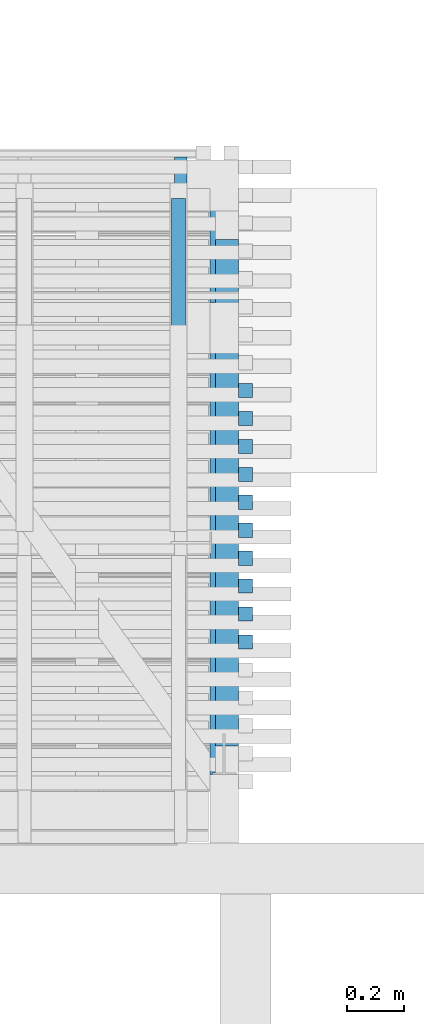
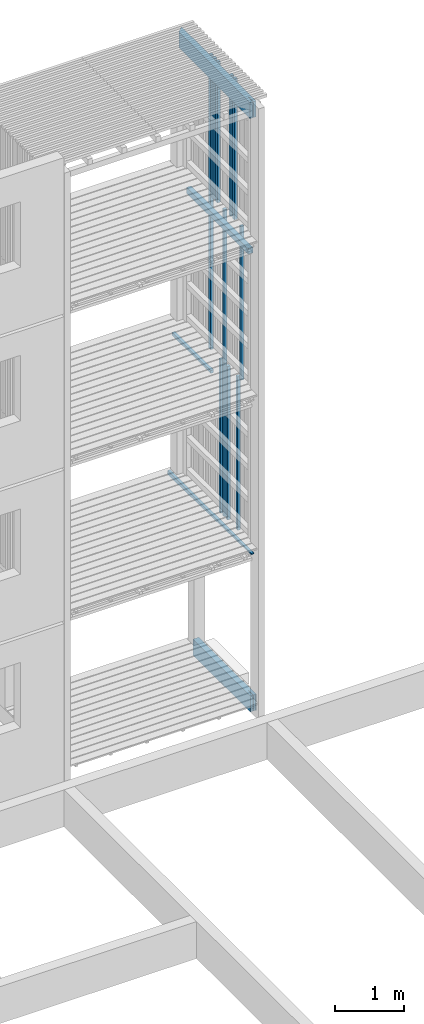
# One storey, part 131 of 182: 17 beams.
"""IFC2X3 building model written with IfcOpenShell, lengths in metres."""

from ifc_helpers import new_model, si_unit, frame, origin, place, context, project, spatial, faceted_brep, element, save


model = new_model("IFC2X3")

# Units and contexts
model_context = context("Model", 3, precision=1e-06, world=origin())
ifc_project = project(units=[si_unit("LENGTHUNIT", "METRE"), si_unit("PLANEANGLEUNIT", "RADIAN")], contexts=[model_context])

# Site, building, storey
site = spatial("IfcSite", under=ifc_project, CompositionType="ELEMENT")
building = spatial("IfcBuilding", under=site, CompositionType="ELEMENT")
storey = spatial("IfcBuildingStorey", under=building, Name="vs", CompositionType="ELEMENT", Elevation=-0.85)

# Beams
placement = place(None, origin())
beam_1_placement = place(placement, frame((56.14499999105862, 7.135077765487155, 5.217399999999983), z_axis=(0.0, 0.0, 1.0), x_axis=(0.0, -1.0, 0.0)))
element("IfcBeam", 1, at=beam_1_placement, inside=storey, Name="Calage", context=model_context, shape_type="Brep", body=[
    faceted_brep([(0.0, 0.025000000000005, -0.025), (0.0, -0.024999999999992, -0.025), (0.0, -0.024999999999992, 0.024999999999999), (0.0, 0.025000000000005, 0.024999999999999), (1.115000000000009, -0.024999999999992, 0.024999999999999), (1.115000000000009, -0.024999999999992, -0.025), (1.115000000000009, 0.025000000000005, -0.025), (1.115000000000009, 0.025000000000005, 0.024999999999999), (0.0, -0.024999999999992, 0.024999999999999), (0.0, -0.024999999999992, -0.025), (1.115000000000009, -0.024999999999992, -0.025), (1.115000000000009, -0.024999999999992, 0.024999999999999), (1.115000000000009, -0.024999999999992, -0.025), (0.0, -0.024999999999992, -0.025), (0.0, 0.025000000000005, -0.025), (1.115000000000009, 0.025000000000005, -0.025), (1.115000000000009, 0.025000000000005, -0.025), (0.0, 0.025000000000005, -0.025), (0.0, 0.025000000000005, 0.024999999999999), (1.115000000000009, 0.025000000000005, 0.024999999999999), (1.115000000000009, 0.025000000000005, 0.024999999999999), (0.0, 0.025000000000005, 0.024999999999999), (0.0, -0.024999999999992, 0.024999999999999), (1.115000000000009, -0.024999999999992, 0.024999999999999)], [[[0, 1, 2, 3]], [[4, 5, 6, 7]], [[8, 9, 10, 11]], [[12, 13, 14, 15]], [[16, 17, 18, 19]], [[20, 21, 22, 23]]]),
])
beam_2_placement = place(placement, frame((56.37999999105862, 6.066895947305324, 2.575000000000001), z_axis=(-1.0, 0.0, 0.0), x_axis=(0.0, 0.0, 1.0)))
element("IfcBeam", 2, at=beam_2_placement, inside=storey, Name="Bardage", context=model_context, shape_type="Brep", body=[
    faceted_brep([(0.0, -0.025000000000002, 0.024999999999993), (0.0, 0.024999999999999, 0.024999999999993), (0.0, 0.024999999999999, -0.025000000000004), (0.0, -0.025000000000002, -0.025000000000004), (2.699961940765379, 0.024999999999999, -0.025000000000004), (2.699961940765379, 0.024999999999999, 0.024999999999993), (2.699961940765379, -0.025000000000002, 0.024999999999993), (2.699961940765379, -0.025000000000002, -0.025000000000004), (0.0, -0.025000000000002, -0.025000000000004), (0.0, 0.024999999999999, -0.025000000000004), (2.699961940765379, 0.024999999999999, -0.025000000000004), (2.699961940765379, -0.025000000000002, -0.025000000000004), (2.699961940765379, 0.024999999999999, -0.025000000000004), (0.0, 0.024999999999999, -0.025000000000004), (0.0, 0.024999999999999, 0.024999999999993), (2.699961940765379, 0.024999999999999, 0.024999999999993), (2.699961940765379, 0.024999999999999, 0.024999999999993), (0.0, 0.024999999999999, 0.024999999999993), (0.0, -0.025000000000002, 0.024999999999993), (2.699961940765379, -0.025000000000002, 0.024999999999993), (2.699961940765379, -0.025000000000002, 0.024999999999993), (0.0, -0.025000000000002, 0.024999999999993), (0.0, -0.025000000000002, -0.025000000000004), (2.699961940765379, -0.025000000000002, -0.025000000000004)], [[[0, 1, 2, 3]], [[4, 5, 6, 7]], [[8, 9, 10, 11]], [[12, 13, 14, 15]], [[16, 17, 18, 19]], [[20, 21, 22, 23]]]),
])
beam_3_placement = place(placement, frame((56.152499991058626, 4.870077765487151, 2.684400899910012), z_axis=(0.0, 0.0, 1.0), x_axis=(0.0, 1.0, 0.0)))
element("IfcBeam", 3, at=beam_3_placement, inside=storey, Name="Calage", context=model_context, shape_type="Brep", body=[
    faceted_brep([(2.410000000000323, -0.022499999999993, -0.035599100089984), (0.0, -0.022499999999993, 0.012600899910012), (0.0, 0.022500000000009, 0.012600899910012), (2.410000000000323, 0.022500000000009, -0.035599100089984), (0.0, 0.022500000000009, 0.035599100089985), (0.0, 0.022500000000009, 0.012600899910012), (0.0, -0.022499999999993, 0.012600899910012), (0.0, -0.022499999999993, 0.035599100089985), (2.410000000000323, 0.022500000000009, -0.035599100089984), (0.0, 0.022500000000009, 0.012600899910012), (0.0, 0.022500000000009, 0.035599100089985), (2.410000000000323, 0.022500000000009, 0.035599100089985), (2.410000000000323, -0.022499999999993, 0.035599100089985), (0.0, -0.022499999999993, 0.035599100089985), (0.0, -0.022499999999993, 0.012600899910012), (2.410000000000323, -0.022499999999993, -0.035599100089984), (2.410000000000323, 0.022500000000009, 0.035599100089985), (0.0, 0.022500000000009, 0.035599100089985), (0.0, -0.022499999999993, 0.035599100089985), (2.410000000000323, -0.022499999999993, 0.035599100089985), (2.410000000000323, 0.022500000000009, -0.035599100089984), (2.410000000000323, 0.022500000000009, 0.035599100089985), (2.410000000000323, -0.022499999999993, 0.035599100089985), (2.410000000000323, -0.022499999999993, -0.035599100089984)], [[[0, 1, 2, 3]], [[4, 5, 6, 7]], [[8, 9, 10, 11]], [[12, 13, 14, 15]], [[16, 17, 18, 19]], [[20, 21, 22, 23]]]),
])
beam_4_placement = place(placement, frame((56.37999999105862, 6.066895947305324, 5.274999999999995), z_axis=(-1.0, 0.0, 0.0), x_axis=(0.0, 0.0, 1.0)))
element("IfcBeam", 4, at=beam_4_placement, inside=storey, Name="Bardage", context=model_context, shape_type="Brep", body=[
    faceted_brep([(1e-15, -0.025000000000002, 0.024999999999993), (1e-15, 0.024999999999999, 0.024999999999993), (1e-15, 0.024999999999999, -0.025000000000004), (1e-15, -0.025000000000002, -0.025000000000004), (2.699999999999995, -0.025000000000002, -0.025000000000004), (2.699999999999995, 0.024999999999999, -0.025000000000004), (2.699999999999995, 0.024999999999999, 0.024999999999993), (2.699999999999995, -0.025000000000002, 0.024999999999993), (1e-15, -0.025000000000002, 0.024999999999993), (1e-15, -0.025000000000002, -0.025000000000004), (2.699999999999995, -0.025000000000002, -0.025000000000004), (2.699999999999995, -0.025000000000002, 0.024999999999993), (2.699999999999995, -0.025000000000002, -0.025000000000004), (1e-15, -0.025000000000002, -0.025000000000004), (1e-15, 0.024999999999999, -0.025000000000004), (2.699999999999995, 0.024999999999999, -0.025000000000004), (2.699999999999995, 0.024999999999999, -0.025000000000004), (1e-15, 0.024999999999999, -0.025000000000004), (1e-15, 0.024999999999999, 0.024999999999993), (2.699999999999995, 0.024999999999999, 0.024999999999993), (2.699999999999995, 0.024999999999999, 0.024999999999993), (1e-15, 0.024999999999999, 0.024999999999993), (1e-15, -0.025000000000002, 0.024999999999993), (2.699999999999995, -0.025000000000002, 0.024999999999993)], [[[0, 1, 2, 3]], [[4, 5, 6, 7]], [[8, 9, 10, 11]], [[12, 13, 14, 15]], [[16, 17, 18, 19]], [[20, 21, 22, 23]]]),
])
beam_5_placement = place(placement, frame((56.30499999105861, 5.110077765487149, -0.119999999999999), z_axis=(0.0, 0.0, 1.0), x_axis=(0.0, 1.0, 0.0)))
element("IfcBeam", 5, at=beam_5_placement, inside=storey, Name="Sommier", context=model_context, shape_type="Brep", body=[
    faceted_brep([(1.660000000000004, 0.049999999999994, 0.14), (1.660000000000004, -0.050000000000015, 0.14), (1.660000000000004, -0.050000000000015, -0.14), (1.660000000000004, 0.049999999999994, -0.14), (0.142000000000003, -0.004000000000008, -0.14), (0.142000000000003, 0.003999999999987, -0.14), (0.005000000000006, 0.003999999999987, -0.14), (0.005000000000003, 0.040999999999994, -0.14), (4e-15, 0.040999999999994, -0.14), (0.0, 0.049999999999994, -0.14), (1.660000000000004, 0.049999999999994, -0.14), (1.660000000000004, -0.050000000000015, -0.14), (0.0, -0.050000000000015, -0.14), (4e-15, -0.041000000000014, -0.14), (0.005000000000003, -0.041000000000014, -0.14), (0.005000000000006, -0.004000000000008, -0.14), (1.660000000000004, 0.049999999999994, 0.14), (1.660000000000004, 0.049999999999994, -0.14), (0.0, 0.049999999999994, -0.14), (0.0, 0.049999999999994, 0.14), (0.852999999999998, 0.049999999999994, -0.123600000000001), (0.852999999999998, 0.049999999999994, 0.051399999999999), (0.776999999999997, 0.049999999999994, 0.051399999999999), (0.776999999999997, 0.049999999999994, -0.123600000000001), (0.0, -0.050000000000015, 0.14), (4e-15, -0.041000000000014, 0.14), (4e-15, -0.041000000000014, -0.14), (0.0, -0.050000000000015, -0.14), (0.852999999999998, 0.044999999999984, -0.123600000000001), (0.776999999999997, 0.044999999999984, -0.123600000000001), (0.776999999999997, 0.044999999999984, 0.051399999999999), (0.852999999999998, 0.044999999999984, 0.051399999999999), (0.852999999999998, 0.044999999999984, 0.051399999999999), (0.776999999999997, 0.044999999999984, 0.051399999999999), (0.776999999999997, 0.049999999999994, 0.051399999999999), (0.852999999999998, 0.049999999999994, 0.051399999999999), (0.776999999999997, 0.044999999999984, -0.123600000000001), (0.852999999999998, 0.044999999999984, -0.123600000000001), (0.852999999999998, 0.049999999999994, -0.123600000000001), (0.776999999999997, 0.049999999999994, -0.123600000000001), (0.852999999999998, 0.049999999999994, 0.051399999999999), (0.852999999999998, 0.049999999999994, -0.123600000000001), (0.852999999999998, 0.044999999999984, -0.123600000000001), (0.852999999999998, 0.044999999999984, 0.051399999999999), (0.776999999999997, 0.044999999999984, 0.051399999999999), (0.776999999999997, 0.044999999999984, -0.123600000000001), (0.776999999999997, 0.049999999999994, -0.123600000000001), (0.776999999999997, 0.049999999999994, 0.051399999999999), (0.0, -0.050000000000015, -0.14), (1.660000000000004, -0.050000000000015, -0.14), (1.660000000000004, -0.050000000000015, 0.14), (0.0, -0.050000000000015, 0.14), (0.0, 0.049999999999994, 0.14), (0.0, 0.049999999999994, -0.14), (4e-15, 0.040999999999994, -0.14), (4e-15, 0.040999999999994, 0.14), (0.0, -0.050000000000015, 0.14), (1.660000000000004, -0.050000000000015, 0.14), (1.660000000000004, 0.049999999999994, 0.14), (0.0, 0.049999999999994, 0.14), (4e-15, 0.040999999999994, 0.14), (0.005000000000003, 0.040999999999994, 0.14), (0.005000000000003, 0.003999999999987, 0.14), (0.142000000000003, 0.003999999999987, 0.140000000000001), (0.142000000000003, -0.004000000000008, 0.140000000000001), (0.005000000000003, -0.004000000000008, 0.14), (0.005000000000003, -0.041000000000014, 0.14), (4e-15, -0.041000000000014, 0.14), (0.142000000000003, 0.003999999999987, -0.14), (0.142000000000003, -0.004000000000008, -0.14), (0.142000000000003, -0.004000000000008, 0.140000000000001), (0.142000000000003, 0.003999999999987, 0.140000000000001), (0.005000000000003, -0.004000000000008, 0.14), (0.142000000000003, -0.004000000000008, 0.140000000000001), (0.142000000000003, -0.004000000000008, -0.14), (0.005000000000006, -0.004000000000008, -0.14), (0.005000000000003, -0.004000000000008, 0.14), (0.005000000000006, -0.004000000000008, -0.14), (0.005000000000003, -0.041000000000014, -0.14), (0.005000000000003, -0.041000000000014, 0.14), (0.005000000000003, -0.041000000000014, 0.14), (0.005000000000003, -0.041000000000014, -0.14), (4e-15, -0.041000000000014, -0.14), (4e-15, -0.041000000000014, 0.14), (4e-15, 0.040999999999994, 0.14), (4e-15, 0.040999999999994, -0.14), (0.005000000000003, 0.040999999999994, -0.14), (0.005000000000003, 0.040999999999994, 0.14), (0.005000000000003, 0.040999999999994, 0.14), (0.005000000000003, 0.040999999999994, -0.14), (0.005000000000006, 0.003999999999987, -0.14), (0.005000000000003, 0.003999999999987, 0.14), (0.142000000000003, 0.003999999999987, 0.140000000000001), (0.005000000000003, 0.003999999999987, 0.14), (0.005000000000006, 0.003999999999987, -0.14), (0.142000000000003, 0.003999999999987, -0.14)], [[[0, 1, 2, 3]], [[4, 5, 6, 7, 8, 9, 10, 11, 12, 13, 14, 15]], [[16, 17, 18, 19], [20, 21, 22, 23]], [[24, 25, 26, 27]], [[28, 29, 30, 31]], [[32, 33, 34, 35]], [[36, 37, 38, 39]], [[40, 41, 42, 43]], [[44, 45, 46, 47]], [[48, 49, 50, 51]], [[52, 53, 54, 55]], [[56, 57, 58, 59, 60, 61, 62, 63, 64, 65, 66, 67]], [[68, 69, 70, 71]], [[72, 73, 74, 75]], [[76, 77, 78, 79]], [[80, 81, 82, 83]], [[84, 85, 86, 87]], [[88, 89, 90, 91]], [[92, 93, 94, 95]]]),
])
beam_6_placement = place(placement, frame((56.37999999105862, 6.459623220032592, 5.274999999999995), z_axis=(-1.0, 0.0, 0.0), x_axis=(0.0, 0.0, 1.0)))
element("IfcBeam", 6, at=beam_6_placement, inside=storey, Name="Bardage", context=model_context, shape_type="Brep", body=[
    faceted_brep([(1e-15, -0.025000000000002, 0.024999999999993), (1e-15, 0.024999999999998, 0.024999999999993), (1e-15, 0.024999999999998, -0.025000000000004), (1e-15, -0.025000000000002, -0.025000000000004), (2.699999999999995, -0.025000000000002, -0.025000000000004), (2.699999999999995, 0.024999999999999, -0.025000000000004), (2.699999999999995, 0.024999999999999, 0.024999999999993), (2.699999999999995, -0.025000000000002, 0.024999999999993), (1e-15, -0.025000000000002, 0.024999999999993), (1e-15, -0.025000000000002, -0.025000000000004), (2.699999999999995, -0.025000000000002, -0.025000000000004), (2.699999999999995, -0.025000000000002, 0.024999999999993), (2.699999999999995, -0.025000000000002, -0.025000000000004), (1e-15, -0.025000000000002, -0.025000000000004), (1e-15, 0.024999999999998, -0.025000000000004), (2.699999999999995, 0.024999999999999, -0.025000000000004), (2.699999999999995, 0.024999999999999, -0.025000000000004), (1e-15, 0.024999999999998, -0.025000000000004), (1e-15, 0.024999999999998, 0.024999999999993), (2.699999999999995, 0.024999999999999, 0.024999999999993), (2.699999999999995, 0.024999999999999, 0.024999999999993), (1e-15, 0.024999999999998, 0.024999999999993), (1e-15, -0.025000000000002, 0.024999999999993), (2.699999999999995, -0.025000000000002, 0.024999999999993)], [[[0, 1, 2, 3]], [[4, 5, 6, 7]], [[8, 9, 10, 11]], [[12, 13, 14, 15]], [[16, 17, 18, 19]], [[20, 21, 22, 23]]]),
])
beam_7_placement = place(placement, frame((56.37999999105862, 6.165077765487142, 2.575000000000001), z_axis=(-1.0, 0.0, 0.0), x_axis=(0.0, 0.0, 1.0)))
element("IfcBeam", 7, at=beam_7_placement, inside=storey, Name="Bardage", context=model_context, shape_type="Brep", body=[
    faceted_brep([(0.0, -0.025000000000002, 0.024999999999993), (0.0, 0.024999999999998, 0.024999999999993), (0.0, 0.024999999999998, -0.025000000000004), (0.0, -0.025000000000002, -0.025000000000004), (2.699961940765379, 0.024999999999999, -0.025000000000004), (2.699961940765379, 0.024999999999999, 0.024999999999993), (2.699961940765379, -0.025000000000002, 0.024999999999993), (2.699961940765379, -0.025000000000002, -0.025000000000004), (0.0, -0.025000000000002, -0.025000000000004), (0.0, 0.024999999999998, -0.025000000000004), (2.699961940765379, 0.024999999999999, -0.025000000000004), (2.699961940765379, -0.025000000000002, -0.025000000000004), (2.699961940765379, 0.024999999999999, -0.025000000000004), (0.0, 0.024999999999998, -0.025000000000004), (0.0, 0.024999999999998, 0.024999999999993), (2.699961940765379, 0.024999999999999, 0.024999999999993), (2.699961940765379, 0.024999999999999, 0.024999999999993), (0.0, 0.024999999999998, 0.024999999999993), (0.0, -0.025000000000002, 0.024999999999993), (2.699961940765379, -0.025000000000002, 0.024999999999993), (2.699961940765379, -0.025000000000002, 0.024999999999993), (0.0, -0.025000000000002, 0.024999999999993), (0.0, -0.025000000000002, -0.025000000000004), (2.699961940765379, -0.025000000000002, -0.025000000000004)], [[[0, 1, 2, 3]], [[4, 5, 6, 7]], [[8, 9, 10, 11]], [[12, 13, 14, 15]], [[16, 17, 18, 19]], [[20, 21, 22, 23]]]),
])
beam_8_placement = place(placement, frame((56.314999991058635, 5.210077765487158, 7.774999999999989), z_axis=(0.0, 0.0, 1.0), x_axis=(0.0, 1.0, 0.0)))
element("IfcBeam", 8, at=beam_8_placement, inside=storey, Name="Support bardage", context=model_context, shape_type="Brep", body=[
    faceted_brep([(1.779999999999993, -0.039999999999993, 0.050000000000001), (1.779999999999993, -0.039999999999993, -0.050000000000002), (1.779999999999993, 0.04000000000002, -0.050000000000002), (1.779999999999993, 0.04000000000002, 0.050000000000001), (-4e-15, -0.039999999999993, -0.050000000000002), (1.779999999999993, -0.039999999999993, -0.050000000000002), (1.779999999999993, -0.039999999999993, 0.050000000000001), (-4e-15, -0.039999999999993, 0.050000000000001), (-4e-15, 0.04000000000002, -0.050000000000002), (1.779999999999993, 0.04000000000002, -0.050000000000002), (1.779999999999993, -0.039999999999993, -0.050000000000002), (-4e-15, -0.039999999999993, -0.050000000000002), (-4e-15, 0.04000000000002, 0.050000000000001), (1.779999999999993, 0.04000000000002, 0.050000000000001), (1.779999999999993, 0.04000000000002, -0.050000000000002), (-4e-15, 0.04000000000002, -0.050000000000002), (-4e-15, -0.039999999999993, 0.050000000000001), (1.779999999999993, -0.039999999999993, 0.050000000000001), (1.779999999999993, 0.04000000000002, 0.050000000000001), (-4e-15, 0.04000000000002, 0.050000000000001), (-4e-15, -0.039999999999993, -0.050000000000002), (-4e-15, -0.039999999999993, 0.050000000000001), (-4e-15, 0.04000000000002, 0.050000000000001), (-4e-15, 0.04000000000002, -0.050000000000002)], [[[0, 1, 2, 3]], [[4, 5, 6, 7]], [[8, 9, 10, 11]], [[12, 13, 14, 15]], [[16, 17, 18, 19]], [[20, 21, 22, 23]]]),
])
beam_9_placement = place(placement, frame((56.37999999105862, 6.459623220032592, 7.974999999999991), z_axis=(-1.0, 0.0, 0.0), x_axis=(0.0, 0.0, 1.0)))
element("IfcBeam", 9, at=beam_9_placement, inside=storey, Name="Bardage", context=model_context, shape_type="Brep", body=[
    faceted_brep([(2.479999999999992, -0.025000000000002, 0.024999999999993), (2.479999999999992, -0.025000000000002, -0.025000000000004), (2.479999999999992, 0.024999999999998, -0.025000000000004), (2.479999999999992, 0.024999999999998, 0.024999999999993), (0.0, 0.024999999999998, 0.024999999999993), (0.0, -0.025000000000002, 0.024999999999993), (2.479999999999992, -0.025000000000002, 0.024999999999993), (2.479999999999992, 0.024999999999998, 0.024999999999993), (0.0, -0.025000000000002, 0.024999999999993), (0.0, 0.024999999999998, 0.024999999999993), (0.0, 0.024999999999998, -0.025000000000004), (0.0, -0.025000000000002, -0.025000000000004), (0.0, 0.024999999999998, -0.025000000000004), (0.0, 0.024999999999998, 0.024999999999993), (2.479999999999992, 0.024999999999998, 0.024999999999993), (2.479999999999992, 0.024999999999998, -0.025000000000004), (0.0, -0.025000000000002, -0.025000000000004), (0.0, 0.024999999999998, -0.025000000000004), (2.479999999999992, 0.024999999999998, -0.025000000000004), (2.479999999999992, -0.025000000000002, -0.025000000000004), (2.479999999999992, -0.025000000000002, 0.024999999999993), (0.0, -0.025000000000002, 0.024999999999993), (0.0, -0.025000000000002, -0.025000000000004), (2.479999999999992, -0.025000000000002, -0.025000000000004)], [[[0, 1, 2, 3]], [[4, 5, 6, 7]], [[8, 9, 10, 11]], [[12, 13, 14, 15]], [[16, 17, 18, 19]], [[20, 21, 22, 23]]]),
])
beam_10_placement = place(placement, frame((56.37999999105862, 5.968714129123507, 2.575000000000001), z_axis=(-1.0, 0.0, 0.0), x_axis=(0.0, 0.0, 1.0)))
element("IfcBeam", 10, at=beam_10_placement, inside=storey, Name="Bardage", context=model_context, shape_type="Brep", body=[
    faceted_brep([(0.0, -0.024999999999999, 0.024999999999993), (0.0, 0.024999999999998, 0.024999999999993), (0.0, 0.024999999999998, -0.025000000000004), (0.0, -0.024999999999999, -0.025000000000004), (2.699961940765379, 0.024999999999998, -0.025000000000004), (2.699961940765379, 0.024999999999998, 0.024999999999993), (2.699961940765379, -0.024999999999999, 0.024999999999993), (2.699961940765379, -0.024999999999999, -0.025000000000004), (0.0, -0.024999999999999, -0.025000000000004), (0.0, 0.024999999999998, -0.025000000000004), (2.699961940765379, 0.024999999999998, -0.025000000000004), (2.699961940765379, -0.024999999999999, -0.025000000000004), (2.699961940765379, 0.024999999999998, -0.025000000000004), (0.0, 0.024999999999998, -0.025000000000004), (0.0, 0.024999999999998, 0.024999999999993), (2.699961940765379, 0.024999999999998, 0.024999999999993), (2.699961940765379, 0.024999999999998, 0.024999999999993), (0.0, 0.024999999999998, 0.024999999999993), (0.0, -0.024999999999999, 0.024999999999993), (2.699961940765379, -0.024999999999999, 0.024999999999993), (2.699961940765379, -0.024999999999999, 0.024999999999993), (0.0, -0.024999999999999, 0.024999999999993), (0.0, -0.024999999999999, -0.025000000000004), (2.699961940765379, -0.024999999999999, -0.025000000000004)], [[[0, 1, 2, 3]], [[4, 5, 6, 7]], [[8, 9, 10, 11]], [[12, 13, 14, 15]], [[16, 17, 18, 19]], [[20, 21, 22, 23]]]),
])
beam_11_placement = place(placement, frame((56.37999999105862, 6.361441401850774, 7.974999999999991), z_axis=(-1.0, 0.0, 0.0), x_axis=(0.0, 0.0, 1.0)))
element("IfcBeam", 11, at=beam_11_placement, inside=storey, Name="Bardage", context=model_context, shape_type="Brep", body=[
    faceted_brep([(2.479999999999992, -0.025000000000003, 0.024999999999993), (2.479999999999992, -0.025000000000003, -0.025000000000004), (2.479999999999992, 0.024999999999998, -0.025000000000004), (2.479999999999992, 0.024999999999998, 0.024999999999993), (0.0, 0.024999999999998, 0.024999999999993), (0.0, -0.025000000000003, 0.024999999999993), (2.479999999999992, -0.025000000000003, 0.024999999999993), (2.479999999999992, 0.024999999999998, 0.024999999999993), (0.0, -0.025000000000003, 0.024999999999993), (0.0, 0.024999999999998, 0.024999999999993), (0.0, 0.024999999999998, -0.025000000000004), (0.0, -0.025000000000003, -0.025000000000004), (0.0, 0.024999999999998, -0.025000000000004), (0.0, 0.024999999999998, 0.024999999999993), (2.479999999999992, 0.024999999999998, 0.024999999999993), (2.479999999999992, 0.024999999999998, -0.025000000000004), (0.0, -0.025000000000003, -0.025000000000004), (0.0, 0.024999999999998, -0.025000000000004), (2.479999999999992, 0.024999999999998, -0.025000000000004), (2.479999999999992, -0.025000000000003, -0.025000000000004), (2.479999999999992, -0.025000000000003, 0.024999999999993), (0.0, -0.025000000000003, 0.024999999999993), (0.0, -0.025000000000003, -0.025000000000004), (2.479999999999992, -0.025000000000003, -0.025000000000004)], [[[0, 1, 2, 3]], [[4, 5, 6, 7]], [[8, 9, 10, 11]], [[12, 13, 14, 15]], [[16, 17, 18, 19]], [[20, 21, 22, 23]]]),
])
beam_12_placement = place(placement, frame((56.37999999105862, 5.674168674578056, 2.575000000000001), z_axis=(-1.0, 0.0, 0.0), x_axis=(0.0, 0.0, 1.0)))
element("IfcBeam", 12, at=beam_12_placement, inside=storey, Name="Bardage", context=model_context, shape_type="Brep", body=[
    faceted_brep([(0.0, -0.025000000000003, 0.024999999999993), (0.0, 0.024999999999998, 0.024999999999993), (0.0, 0.024999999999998, -0.025000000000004), (0.0, -0.025000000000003, -0.025000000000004), (2.699961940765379, 0.024999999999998, -0.025000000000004), (2.699961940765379, 0.024999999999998, 0.024999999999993), (2.699961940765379, -0.025000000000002, 0.024999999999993), (2.699961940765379, -0.025000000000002, -0.025000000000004), (0.0, -0.025000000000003, -0.025000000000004), (0.0, 0.024999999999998, -0.025000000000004), (2.699961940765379, 0.024999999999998, -0.025000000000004), (2.699961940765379, -0.025000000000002, -0.025000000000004), (2.699961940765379, 0.024999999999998, -0.025000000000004), (0.0, 0.024999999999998, -0.025000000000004), (0.0, 0.024999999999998, 0.024999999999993), (2.699961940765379, 0.024999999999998, 0.024999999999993), (2.699961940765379, 0.024999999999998, 0.024999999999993), (0.0, 0.024999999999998, 0.024999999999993), (0.0, -0.025000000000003, 0.024999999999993), (2.699961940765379, -0.025000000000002, 0.024999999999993), (2.699961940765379, -0.025000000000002, 0.024999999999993), (0.0, -0.025000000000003, 0.024999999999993), (0.0, -0.025000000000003, -0.025000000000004), (2.699961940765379, -0.025000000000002, -0.025000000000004)], [[[0, 1, 2, 3]], [[4, 5, 6, 7]], [[8, 9, 10, 11]], [[12, 13, 14, 15]], [[16, 17, 18, 19]], [[20, 21, 22, 23]]]),
])
beam_13_placement = place(placement, frame((56.37999999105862, 5.772350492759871, 7.974999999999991), z_axis=(-1.0, 0.0, 0.0), x_axis=(0.0, 0.0, 1.0)))
element("IfcBeam", 13, at=beam_13_placement, inside=storey, Name="Bardage", context=model_context, shape_type="Brep", body=[
    faceted_brep([(2.479999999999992, -0.024999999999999, 0.024999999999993), (2.479999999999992, -0.024999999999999, -0.025000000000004), (2.479999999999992, 0.024999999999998, -0.025000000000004), (2.479999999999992, 0.024999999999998, 0.024999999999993), (0.0, 0.024999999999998, 0.024999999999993), (0.0, -0.024999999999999, 0.024999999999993), (2.479999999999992, -0.024999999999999, 0.024999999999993), (2.479999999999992, 0.024999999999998, 0.024999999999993), (0.0, -0.024999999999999, 0.024999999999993), (0.0, 0.024999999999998, 0.024999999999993), (0.0, 0.024999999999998, -0.025000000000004), (0.0, -0.024999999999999, -0.025000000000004), (0.0, 0.024999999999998, -0.025000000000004), (0.0, 0.024999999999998, 0.024999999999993), (2.479999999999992, 0.024999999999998, 0.024999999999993), (2.479999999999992, 0.024999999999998, -0.025000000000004), (0.0, -0.024999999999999, -0.025000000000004), (0.0, 0.024999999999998, -0.025000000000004), (2.479999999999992, 0.024999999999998, -0.025000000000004), (2.479999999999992, -0.024999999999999, -0.025000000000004), (2.479999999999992, -0.024999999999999, 0.024999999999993), (0.0, -0.024999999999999, 0.024999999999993), (0.0, -0.024999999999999, -0.025000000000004), (2.479999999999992, -0.024999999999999, -0.025000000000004)], [[[0, 1, 2, 3]], [[4, 5, 6, 7]], [[8, 9, 10, 11]], [[12, 13, 14, 15]], [[16, 17, 18, 19]], [[20, 21, 22, 23]]]),
])
beam_14_placement = place(placement, frame((56.37999999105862, 5.575986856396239, 5.274999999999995), z_axis=(-1.0, 0.0, 0.0), x_axis=(0.0, 0.0, 1.0)))
element("IfcBeam", 14, at=beam_14_placement, inside=storey, Name="Bardage", context=model_context, shape_type="Brep", body=[
    faceted_brep([(1e-15, -0.025000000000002, 0.024999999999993), (1e-15, 0.024999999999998, 0.024999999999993), (1e-15, 0.024999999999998, -0.025000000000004), (1e-15, -0.025000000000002, -0.025000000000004), (2.699999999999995, -0.025000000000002, -0.025000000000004), (2.699999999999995, 0.024999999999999, -0.025000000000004), (2.699999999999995, 0.024999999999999, 0.024999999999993), (2.699999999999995, -0.025000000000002, 0.024999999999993), (1e-15, -0.025000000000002, 0.024999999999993), (1e-15, -0.025000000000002, -0.025000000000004), (2.699999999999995, -0.025000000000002, -0.025000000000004), (2.699999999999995, -0.025000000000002, 0.024999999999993), (2.699999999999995, -0.025000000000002, -0.025000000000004), (1e-15, -0.025000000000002, -0.025000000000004), (1e-15, 0.024999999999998, -0.025000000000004), (2.699999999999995, 0.024999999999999, -0.025000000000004), (2.699999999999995, 0.024999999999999, -0.025000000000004), (1e-15, 0.024999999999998, -0.025000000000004), (1e-15, 0.024999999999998, 0.024999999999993), (2.699999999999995, 0.024999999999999, 0.024999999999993), (2.699999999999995, 0.024999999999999, 0.024999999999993), (1e-15, 0.024999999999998, 0.024999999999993), (1e-15, -0.025000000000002, 0.024999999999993), (2.699999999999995, -0.025000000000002, 0.024999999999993)], [[[0, 1, 2, 3]], [[4, 5, 6, 7]], [[8, 9, 10, 11]], [[12, 13, 14, 15]], [[16, 17, 18, 19]], [[20, 21, 22, 23]]]),
])
beam_15_placement = place(placement, frame((56.30499999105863, 5.115077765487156, 10.314999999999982), z_axis=(0.0, 0.0, 1.0), x_axis=(0.0, 1.0, 0.0)))
element("IfcBeam", 15, at=beam_15_placement, inside=storey, Name="Sommier", context=model_context, shape_type="Brep", body=[
    faceted_brep([(2.054999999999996, 0.049999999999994, 0.140000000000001), (2.054999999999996, 0.049999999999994, -0.140000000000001), (0.0, 0.049999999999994, -0.140000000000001), (0.0, 0.049999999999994, 0.140000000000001), (2.054999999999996, 0.049999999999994, -0.140000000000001), (2.054999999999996, 0.049999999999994, 0.140000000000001), (2.154999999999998, -0.05, 0.140000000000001), (2.154999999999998, -0.05, -0.140000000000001), (-4e-15, -0.003999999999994, 0.140000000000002), (0.0, -0.05, 0.140000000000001), (2.154999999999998, -0.05, 0.140000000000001), (2.054999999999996, 0.049999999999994, 0.140000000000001), (0.0, 0.049999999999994, 0.140000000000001), (-4e-15, 0.004000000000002, 0.140000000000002), (0.136999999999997, 0.004000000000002, 0.140000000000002), (0.136999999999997, -0.003999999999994, 0.140000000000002), (2.154999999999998, -0.05, -0.140000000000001), (2.154999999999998, -0.05, 0.140000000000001), (0.0, -0.05, 0.140000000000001), (0.0, -0.05, -0.140000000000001), (0.0, 0.004000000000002, -0.139999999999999), (-4e-15, 0.004000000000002, 0.140000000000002), (0.0, 0.049999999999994, 0.140000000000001), (0.0, 0.049999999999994, -0.140000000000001), (0.0, -0.05, 0.140000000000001), (-4e-15, -0.003999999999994, 0.140000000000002), (0.0, -0.003999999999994, -0.139999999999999), (0.0, -0.05, -0.140000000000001), (0.0, 0.049999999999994, -0.140000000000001), (2.054999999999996, 0.049999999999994, -0.140000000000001), (2.154999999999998, -0.05, -0.140000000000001), (0.0, -0.05, -0.140000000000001), (0.0, -0.003999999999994, -0.139999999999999), (0.136999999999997, -0.003999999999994, -0.139999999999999), (0.136999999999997, 0.004000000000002, -0.139999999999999), (0.0, 0.004000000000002, -0.139999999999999), (0.136999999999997, 0.004000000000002, -0.139999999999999), (0.136999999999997, -0.003999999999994, -0.139999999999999), (0.136999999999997, -0.003999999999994, 0.140000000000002), (0.136999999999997, 0.004000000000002, 0.140000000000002), (-4e-15, -0.003999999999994, 0.140000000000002), (0.136999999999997, -0.003999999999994, 0.140000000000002), (0.136999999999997, -0.003999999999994, -0.139999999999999), (0.0, -0.003999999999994, -0.139999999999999), (0.136999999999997, 0.004000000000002, 0.140000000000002), (-4e-15, 0.004000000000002, 0.140000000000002), (0.0, 0.004000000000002, -0.139999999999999), (0.136999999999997, 0.004000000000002, -0.139999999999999)], [[[0, 1, 2, 3]], [[4, 5, 6, 7]], [[8, 9, 10, 11, 12, 13, 14, 15]], [[16, 17, 18, 19]], [[20, 21, 22, 23]], [[24, 25, 26, 27]], [[28, 29, 30, 31, 32, 33, 34, 35]], [[36, 37, 38, 39]], [[40, 41, 42, 43]], [[44, 45, 46, 47]]]),
])
beam_16_placement = place(placement, frame((56.37999999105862, 5.870532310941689, 7.974999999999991), z_axis=(-1.0, 0.0, 0.0), x_axis=(0.0, 0.0, 1.0)))
element("IfcBeam", 16, at=beam_16_placement, inside=storey, Name="Bardage", context=model_context, shape_type="Brep", body=[
    faceted_brep([(2.479999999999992, -0.025000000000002, 0.024999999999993), (2.479999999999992, -0.025000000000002, -0.025000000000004), (2.479999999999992, 0.025000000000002, -0.025000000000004), (2.479999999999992, 0.025000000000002, 0.024999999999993), (0.0, 0.025000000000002, 0.024999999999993), (0.0, -0.025000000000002, 0.024999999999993), (2.479999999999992, -0.025000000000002, 0.024999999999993), (2.479999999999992, 0.025000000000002, 0.024999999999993), (0.0, -0.025000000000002, 0.024999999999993), (0.0, 0.025000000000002, 0.024999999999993), (0.0, 0.025000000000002, -0.025000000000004), (0.0, -0.025000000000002, -0.025000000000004), (0.0, 0.025000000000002, -0.025000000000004), (0.0, 0.025000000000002, 0.024999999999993), (2.479999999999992, 0.025000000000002, 0.024999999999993), (2.479999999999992, 0.025000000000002, -0.025000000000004), (0.0, -0.025000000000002, -0.025000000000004), (0.0, 0.025000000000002, -0.025000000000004), (2.479999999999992, 0.025000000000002, -0.025000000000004), (2.479999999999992, -0.025000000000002, -0.025000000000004), (2.479999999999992, -0.025000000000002, 0.024999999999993), (0.0, -0.025000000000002, 0.024999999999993), (0.0, -0.025000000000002, -0.025000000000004), (2.479999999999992, -0.025000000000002, -0.025000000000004)], [[[0, 1, 2, 3]], [[4, 5, 6, 7]], [[8, 9, 10, 11]], [[12, 13, 14, 15]], [[16, 17, 18, 19]], [[20, 21, 22, 23]]]),
])
beam_17_placement = place(placement, frame((56.37999999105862, 6.263259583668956, 7.974999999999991), z_axis=(-1.0, 0.0, 0.0), x_axis=(0.0, 0.0, 1.0)))
element("IfcBeam", 17, at=beam_17_placement, inside=storey, Name="Bardage", context=model_context, shape_type="Brep", body=[
    faceted_brep([(2.479999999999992, -0.024999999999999, 0.024999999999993), (2.479999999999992, -0.024999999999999, -0.025000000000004), (2.479999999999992, 0.024999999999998, -0.025000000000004), (2.479999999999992, 0.024999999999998, 0.024999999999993), (0.0, 0.024999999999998, 0.024999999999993), (0.0, -0.024999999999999, 0.024999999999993), (2.479999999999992, -0.024999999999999, 0.024999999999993), (2.479999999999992, 0.024999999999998, 0.024999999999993), (0.0, -0.024999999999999, 0.024999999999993), (0.0, 0.024999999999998, 0.024999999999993), (0.0, 0.024999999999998, -0.025000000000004), (0.0, -0.024999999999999, -0.025000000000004), (0.0, 0.024999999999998, -0.025000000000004), (0.0, 0.024999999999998, 0.024999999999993), (2.479999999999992, 0.024999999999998, 0.024999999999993), (2.479999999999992, 0.024999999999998, -0.025000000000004), (0.0, -0.024999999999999, -0.025000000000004), (0.0, 0.024999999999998, -0.025000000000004), (2.479999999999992, 0.024999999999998, -0.025000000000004), (2.479999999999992, -0.024999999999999, -0.025000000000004), (2.479999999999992, -0.024999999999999, 0.024999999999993), (0.0, -0.024999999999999, 0.024999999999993), (0.0, -0.024999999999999, -0.025000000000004), (2.479999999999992, -0.024999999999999, -0.025000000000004)], [[[0, 1, 2, 3]], [[4, 5, 6, 7]], [[8, 9, 10, 11]], [[12, 13, 14, 15]], [[16, 17, 18, 19]], [[20, 21, 22, 23]]]),
])

save(model, "model.ifc")
